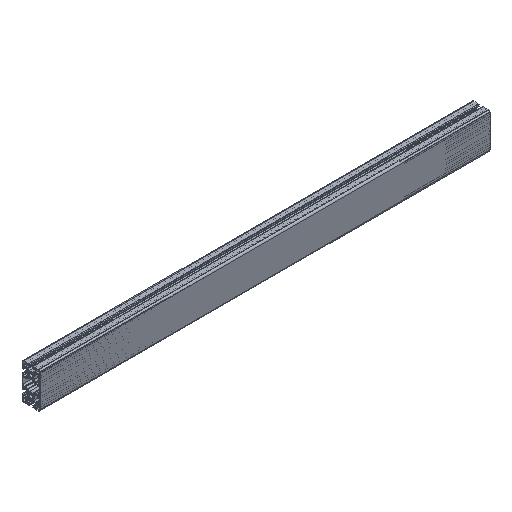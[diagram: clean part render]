
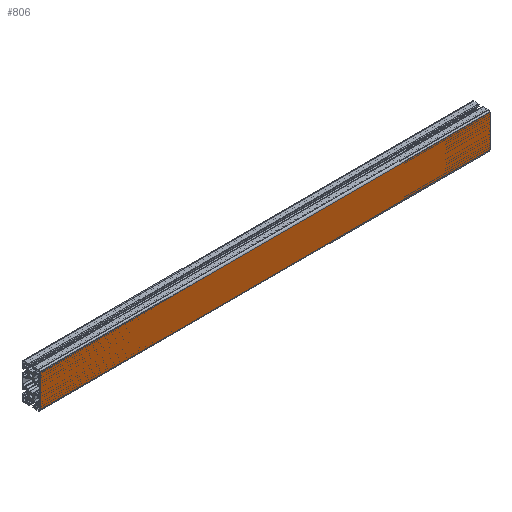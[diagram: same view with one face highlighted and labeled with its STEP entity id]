
A CAD part, isometric view. The second image highlights one B-rep face of the part: STEP entity #806.
In plain terms, the highlighted planar face has unit normal (0, -1, 0).
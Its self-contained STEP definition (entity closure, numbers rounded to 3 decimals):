
#125 = CARTESIAN_POINT ( 'NONE',  ( 1000., -20., 36. ) ) ;
#599 = LINE ( 'NONE', #3306, #5134 ) ;
#604 = DIRECTION ( 'NONE',  ( -1., 0., 0. ) ) ;
#806 = ADVANCED_FACE ( 'NONE', ( #7210 ), #5879, .F. ) ;
#1060 = VERTEX_POINT ( 'NONE', #5362 ) ;
#1221 = ORIENTED_EDGE ( 'NONE', *, *, #4444, .F. ) ;
#1504 = DIRECTION ( 'NONE',  ( -1., 0., 0. ) ) ;
#1835 = CARTESIAN_POINT ( 'NONE',  ( 1000., -20., 36. ) ) ;
#1915 = LINE ( 'NONE', #1835, #6498 ) ;
#2062 = EDGE_CURVE ( 'NONE', #3345, #3030, #1915, .T. ) ;
#2123 = AXIS2_PLACEMENT_3D ( 'NONE', #3202, #2183, #5902 ) ;
#2183 = DIRECTION ( 'NONE',  ( 0., 1., 0. ) ) ;
#2292 = LINE ( 'NONE', #125, #2472 ) ;
#2299 = DIRECTION ( 'NONE',  ( 0., 0., -1. ) ) ;
#2472 = VECTOR ( 'NONE', #5069, 1000. ) ;
#3030 = VERTEX_POINT ( 'NONE', #3864 ) ;
#3202 = CARTESIAN_POINT ( 'NONE',  ( 1000., -20., 36. ) ) ;
#3306 = CARTESIAN_POINT ( 'NONE',  ( 1000., -20., -36. ) ) ;
#3313 = CARTESIAN_POINT ( 'NONE',  ( 1000., -20., -36. ) ) ;
#3345 = VERTEX_POINT ( 'NONE', #5694 ) ;
#3451 = VERTEX_POINT ( 'NONE', #3313 ) ;
#3819 = ORIENTED_EDGE ( 'NONE', *, *, #6466, .T. ) ;
#3864 = CARTESIAN_POINT ( 'NONE',  ( 0., -20., 36. ) ) ;
#3885 = ORIENTED_EDGE ( 'NONE', *, *, #2062, .T. ) ;
#3915 = ORIENTED_EDGE ( 'NONE', *, *, #7697, .F. ) ;
#4444 = EDGE_CURVE ( 'NONE', #3451, #1060, #599, .T. ) ;
#4853 = VECTOR ( 'NONE', #2299, 1000. ) ;
#5069 = DIRECTION ( 'NONE',  ( 0., 0., -1. ) ) ;
#5134 = VECTOR ( 'NONE', #1504, 1000. ) ;
#5362 = CARTESIAN_POINT ( 'NONE',  ( 0., -20., -36. ) ) ;
#5694 = CARTESIAN_POINT ( 'NONE',  ( 1000., -20., 36. ) ) ;
#5879 = PLANE ( 'NONE',  #2123 ) ;
#5902 = DIRECTION ( 'NONE',  ( 0., 0., 1. ) ) ;
#6054 = CARTESIAN_POINT ( 'NONE',  ( 0., -20., 36. ) ) ;
#6466 = EDGE_CURVE ( 'NONE', #3030, #1060, #7965, .T. ) ;
#6498 = VECTOR ( 'NONE', #604, 1000. ) ;
#7210 = FACE_OUTER_BOUND ( 'NONE', #8025, .T. ) ;
#7697 = EDGE_CURVE ( 'NONE', #3345, #3451, #2292, .T. ) ;
#7965 = LINE ( 'NONE', #6054, #4853 ) ;
#8025 = EDGE_LOOP ( 'NONE', ( #3819, #1221, #3915, #3885 ) ) ;
